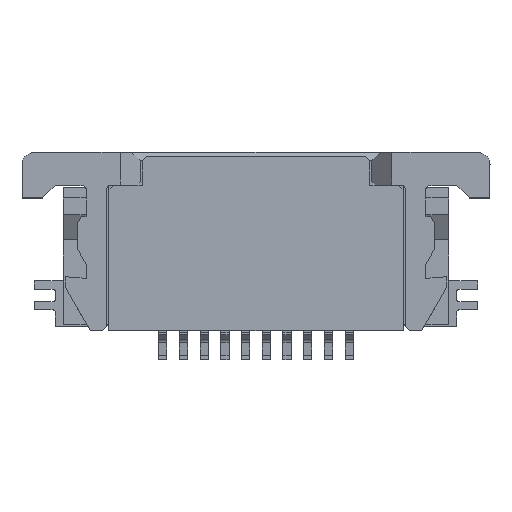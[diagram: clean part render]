
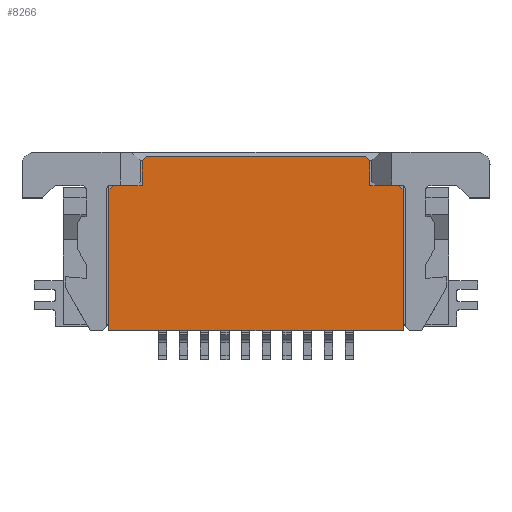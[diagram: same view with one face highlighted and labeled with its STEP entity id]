
A CAD part, top view. The second image highlights one B-rep face of the part: STEP entity #8266.
In plain terms, the highlighted planar face has unit normal (0, 0, 1).
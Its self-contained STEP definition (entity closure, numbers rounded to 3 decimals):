
#10 = ORIENTED_EDGE ( 'NONE', *, *, #10653, .F. ) ;
#103 = ORIENTED_EDGE ( 'NONE', *, *, #8414, .F. ) ;
#109 = DIRECTION ( 'NONE',  ( -1., 0., 0. ) ) ;
#135 = CARTESIAN_POINT ( 'NONE',  ( -12.7, -0.8, 1.98 ) ) ;
#137 = CARTESIAN_POINT ( 'NONE',  ( -12., -0.8, 1.98 ) ) ;
#213 = VERTEX_POINT ( 'NONE', #11408 ) ;
#324 = EDGE_CURVE ( 'NONE', #5869, #213, #9687, .T. ) ;
#497 = CARTESIAN_POINT ( 'NONE',  ( -3.3, -3.3, 1.98 ) ) ;
#568 = VECTOR ( 'NONE', #706, 1000. ) ;
#591 = ORIENTED_EDGE ( 'NONE', *, *, #1763, .T. ) ;
#706 = DIRECTION ( 'NONE',  ( 0., -1., 0. ) ) ;
#718 = VECTOR ( 'NONE', #2985, 1000. ) ;
#950 = CARTESIAN_POINT ( 'NONE',  ( -2., -0.8, 1.98 ) ) ;
#1078 = ORIENTED_EDGE ( 'NONE', *, *, #11128, .T. ) ;
#1142 = EDGE_CURVE ( 'NONE', #10177, #9478, #7674, .T. ) ;
#1182 = LINE ( 'NONE', #1357, #3740 ) ;
#1220 = CARTESIAN_POINT ( 'NONE',  ( -2., -4.3, 1.98 ) ) ;
#1339 = VERTEX_POINT ( 'NONE', #2896 ) ;
#1357 = CARTESIAN_POINT ( 'NONE',  ( 0., -0.8, 1.98 ) ) ;
#1415 = VERTEX_POINT ( 'NONE', #3021 ) ;
#1458 = DIRECTION ( 'NONE',  ( -0.707, -0.707, 0. ) ) ;
#1763 = EDGE_CURVE ( 'NONE', #7014, #8135, #3430, .T. ) ;
#1875 = ORIENTED_EDGE ( 'NONE', *, *, #324, .F. ) ;
#1899 = CARTESIAN_POINT ( 'NONE',  ( -12., 0., 1.98 ) ) ;
#2062 = PLANE ( 'NONE',  #11373 ) ;
#2179 = DIRECTION ( 'NONE',  ( -1., 0., 0. ) ) ;
#2566 = VECTOR ( 'NONE', #3984, 1000. ) ;
#2779 = EDGE_CURVE ( 'NONE', #1339, #6275, #1182, .T. ) ;
#2896 = CARTESIAN_POINT ( 'NONE',  ( -5.8, -0.8, 1.98 ) ) ;
#2985 = DIRECTION ( 'NONE',  ( 0., -1., 0. ) ) ;
#3021 = CARTESIAN_POINT ( 'NONE',  ( -5.7, -4.3, 1.98 ) ) ;
#3028 = DIRECTION ( 'NONE',  ( 1., 0., 0. ) ) ;
#3088 = LINE ( 'NONE', #7955, #11770 ) ;
#3316 = DIRECTION ( 'NONE',  ( -1., 0., 0. ) ) ;
#3377 = LINE ( 'NONE', #1220, #11371 ) ;
#3430 = LINE ( 'NONE', #5348, #10757 ) ;
#3586 = DIRECTION ( 'NONE',  ( -1., 0., 0. ) ) ;
#3740 = VECTOR ( 'NONE', #2179, 1000. ) ;
#3765 = EDGE_LOOP ( 'NONE', ( #5705, #103, #10, #10199, #5165, #1875, #1078, #591, #8445, #8132, #8722, #4226 ) ) ;
#3973 = VERTEX_POINT ( 'NONE', #10332 ) ;
#3984 = DIRECTION ( 'NONE',  ( 0., -1., 0. ) ) ;
#4120 = EDGE_CURVE ( 'NONE', #8135, #11280, #5742, .T. ) ;
#4226 = ORIENTED_EDGE ( 'NONE', *, *, #6297, .T. ) ;
#4431 = LINE ( 'NONE', #12190, #6343 ) ;
#4709 = CARTESIAN_POINT ( 'NONE',  ( -12., -0.2, 1.98 ) ) ;
#4819 = LINE ( 'NONE', #11630, #2566 ) ;
#5021 = LINE ( 'NONE', #950, #10801 ) ;
#5165 = ORIENTED_EDGE ( 'NONE', *, *, #5750, .F. ) ;
#5339 = LINE ( 'NONE', #497, #9795 ) ;
#5348 = CARTESIAN_POINT ( 'NONE',  ( -6.9, 4.9, 1.98 ) ) ;
#5467 = CARTESIAN_POINT ( 'NONE',  ( -11.9, -0.1, 1.98 ) ) ;
#5599 = LINE ( 'NONE', #5786, #568 ) ;
#5705 = ORIENTED_EDGE ( 'NONE', *, *, #12532, .F. ) ;
#5742 = LINE ( 'NONE', #1899, #718 ) ;
#5750 = EDGE_CURVE ( 'NONE', #213, #6275, #4819, .T. ) ;
#5786 = CARTESIAN_POINT ( 'NONE',  ( -12.8, 0., 1.98 ) ) ;
#5869 = VERTEX_POINT ( 'NONE', #12127 ) ;
#5963 = FACE_OUTER_BOUND ( 'NONE', #3765, .T. ) ;
#6275 = VERTEX_POINT ( 'NONE', #12331 ) ;
#6297 = EDGE_CURVE ( 'NONE', #9478, #3973, #5599, .T. ) ;
#6343 = VECTOR ( 'NONE', #3586, 1000. ) ;
#6885 = DIRECTION ( 'NONE',  ( 0.707, -0.707, 0. ) ) ;
#6996 = CARTESIAN_POINT ( 'NONE',  ( -2., 0., 1.98 ) ) ;
#7014 = VERTEX_POINT ( 'NONE', #5467 ) ;
#7122 = DIRECTION ( 'NONE',  ( 0.707, -0.707, 0. ) ) ;
#7674 = LINE ( 'NONE', #11530, #9296 ) ;
#7813 = CARTESIAN_POINT ( 'NONE',  ( -12.8, -0.9, 1.98 ) ) ;
#7955 = CARTESIAN_POINT ( 'NONE',  ( -5.7, 0., 1.98 ) ) ;
#8132 = ORIENTED_EDGE ( 'NONE', *, *, #10535, .T. ) ;
#8135 = VERTEX_POINT ( 'NONE', #4709 ) ;
#8266 = ADVANCED_FACE ( 'NONE', ( #5963 ), #2062, .T. ) ;
#8382 = CARTESIAN_POINT ( 'NONE',  ( -5.7, -0.9, 1.98 ) ) ;
#8414 = EDGE_CURVE ( 'NONE', #8826, #1415, #3088, .T. ) ;
#8445 = ORIENTED_EDGE ( 'NONE', *, *, #4120, .T. ) ;
#8722 = ORIENTED_EDGE ( 'NONE', *, *, #1142, .T. ) ;
#8826 = VERTEX_POINT ( 'NONE', #8382 ) ;
#9296 = VECTOR ( 'NONE', #10587, 1000. ) ;
#9298 = VECTOR ( 'NONE', #6885, 1000. ) ;
#9478 = VERTEX_POINT ( 'NONE', #7813 ) ;
#9687 = LINE ( 'NONE', #12416, #9298 ) ;
#9795 = VECTOR ( 'NONE', #7122, 1000. ) ;
#10088 = DIRECTION ( 'NONE',  ( 0., 0., 1. ) ) ;
#10177 = VERTEX_POINT ( 'NONE', #135 ) ;
#10199 = ORIENTED_EDGE ( 'NONE', *, *, #2779, .T. ) ;
#10332 = CARTESIAN_POINT ( 'NONE',  ( -12.8, -4.3, 1.98 ) ) ;
#10535 = EDGE_CURVE ( 'NONE', #11280, #10177, #5021, .T. ) ;
#10587 = DIRECTION ( 'NONE',  ( -0.707, -0.707, 0. ) ) ;
#10653 = EDGE_CURVE ( 'NONE', #1339, #8826, #5339, .T. ) ;
#10757 = VECTOR ( 'NONE', #1458, 1000. ) ;
#10801 = VECTOR ( 'NONE', #109, 1000. ) ;
#10927 = DIRECTION ( 'NONE',  ( 0., -1., 0. ) ) ;
#11128 = EDGE_CURVE ( 'NONE', #5869, #7014, #4431, .T. ) ;
#11280 = VERTEX_POINT ( 'NONE', #137 ) ;
#11371 = VECTOR ( 'NONE', #3316, 1000. ) ;
#11373 = AXIS2_PLACEMENT_3D ( 'NONE', #6996, #10088, #3028 ) ;
#11408 = CARTESIAN_POINT ( 'NONE',  ( -6.5, -0.2, 1.98 ) ) ;
#11530 = CARTESIAN_POINT ( 'NONE',  ( -6.95, 4.95, 1.98 ) ) ;
#11630 = CARTESIAN_POINT ( 'NONE',  ( -6.5, 0., 1.98 ) ) ;
#11770 = VECTOR ( 'NONE', #10927, 1000. ) ;
#12127 = CARTESIAN_POINT ( 'NONE',  ( -6.6, -0.1, 1.98 ) ) ;
#12190 = CARTESIAN_POINT ( 'NONE',  ( -2., -0.1, 1.98 ) ) ;
#12331 = CARTESIAN_POINT ( 'NONE',  ( -6.5, -0.8, 1.98 ) ) ;
#12416 = CARTESIAN_POINT ( 'NONE',  ( -3.35, -3.35, 1.98 ) ) ;
#12532 = EDGE_CURVE ( 'NONE', #1415, #3973, #3377, .T. ) ;
